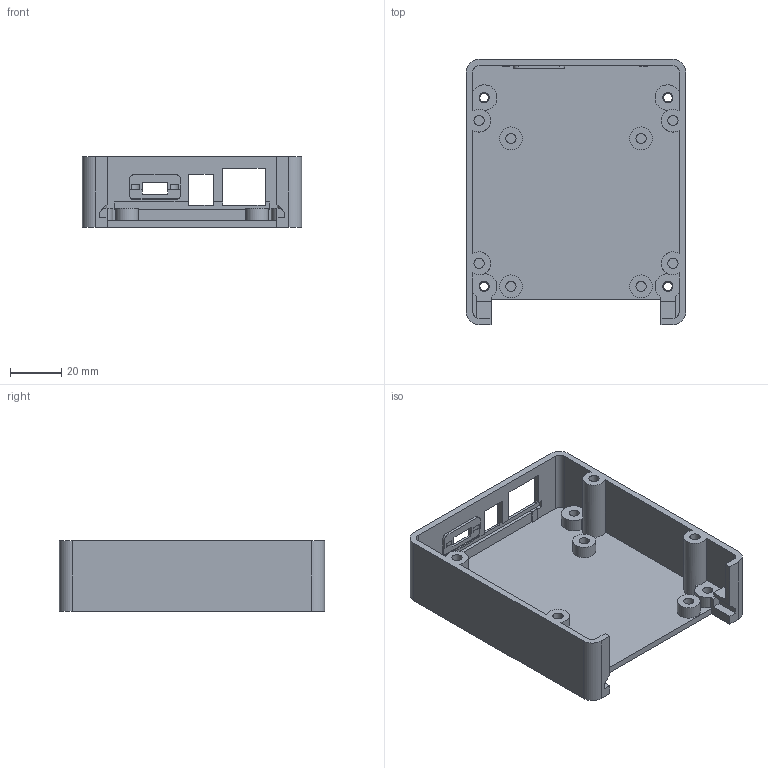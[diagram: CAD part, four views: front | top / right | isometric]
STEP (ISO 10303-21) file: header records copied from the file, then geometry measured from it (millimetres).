
FILE_DESCRIPTION(/* description */ (''),/* implementation_level */ '2;1');
FILE_NAME(/* name */ 'carrier-bottom.step',/* time_stamp */ '2026-09-14T13:08:18-07:00',/* author */ (''),/* organization */ (''),/* preprocessor_version */ 'ST-DEVELOPER v20.2',/* originating_system */ 'Autodesk Translation Framework v15.15.0.0',/* authorisation */ '');
FILE_SCHEMA (('AUTOMOTIVE_DESIGN { 1 0 10303 214 3 1 1 }'));
Length unit declared in the file: centimetre
Products named in the file (1): 01 Bottom shell - continuous fascia guides
Bounding box: 86 x 104 x 27.6 mm (x, y, z)
Volume: 45682 mm3; surface area: 35207.9 mm2
Topology: 1 solids, 1 shells, 173 faces, 466 edges, 310 vertices
Faces by surface type: plane 111, cylinder 62
Full cylindrical faces by diameter (mm): 3.4 x4, 4 x12, 9 x4
Entity records: 5510 total; most frequent: CARTESIAN_POINT 960, DIRECTION 944, ORIENTED_EDGE 932, EDGE_CURVE 466, LINE 332, VECTOR 332, VERTEX_POINT 310, AXIS2_PLACEMENT_3D 306
